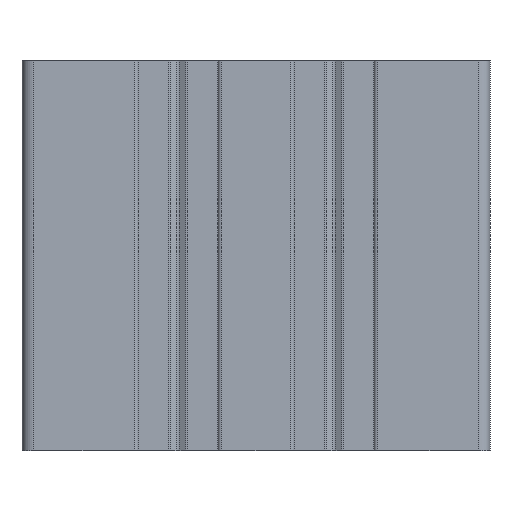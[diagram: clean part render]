
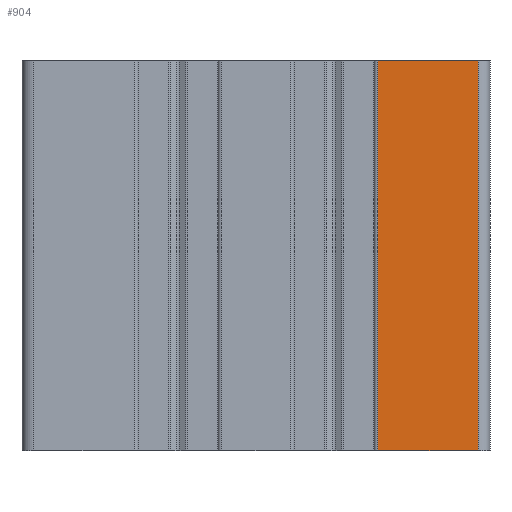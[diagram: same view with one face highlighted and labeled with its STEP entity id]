
A CAD part, left-side view. The second image highlights one B-rep face of the part: STEP entity #904.
In plain terms, the highlighted planar face has unit normal (-1, 0, 0).
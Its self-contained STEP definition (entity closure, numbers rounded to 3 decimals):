
#904=ADVANCED_FACE('',(#1952),#1953,.F.);
#1952=FACE_OUTER_BOUND('',#3129,.T.);
#1953=PLANE('',#3130);
#3129=EDGE_LOOP('',(#6283,#6284,#6285,#6286));
#3130=AXIS2_PLACEMENT_3D('',#6287,#6288,#6289);
#6283=ORIENTED_EDGE('',*,*,#8563,.T.);
#6284=ORIENTED_EDGE('',*,*,#8240,.F.);
#6285=ORIENTED_EDGE('',*,*,#7760,.F.);
#6286=ORIENTED_EDGE('',*,*,#8578,.T.);
#6287=CARTESIAN_POINT('',(0.0,14.4,50.0));
#6288=DIRECTION('',(1.0,0.0,0.0));
#6289=DIRECTION('',(0.0,0.0,-1.0));
#7760=EDGE_CURVE('',#9598,#9600,#9601,.T.);
#8240=EDGE_CURVE('',#9600,#10364,#10368,.T.);
#8563=EDGE_CURVE('',#10660,#10364,#10869,.T.);
#8578=EDGE_CURVE('',#9598,#10660,#10884,.T.);
#9598=VERTEX_POINT('',#12113);
#9600=VERTEX_POINT('',#12115);
#9601=LINE('',#12116,#12117);
#10364=VERTEX_POINT('',#13129);
#10368=LINE('',#13134,#13135);
#10660=VERTEX_POINT('',#13531);
#10869=LINE('',#13802,#13803);
#10884=LINE('',#13826,#13827);
#12113=CARTESIAN_POINT('',(0.0,14.4,50.0));
#12115=CARTESIAN_POINT('',(0.0,1.5,50.0));
#12116=CARTESIAN_POINT('',(0.0,14.4,50.0));
#12117=VECTOR('',#14854,1.0);
#13129=CARTESIAN_POINT('',(0.0,1.5,0.0));
#13134=CARTESIAN_POINT('',(0.0,1.5,50.0));
#13135=VECTOR('',#15543,1.0);
#13531=CARTESIAN_POINT('',(0.0,14.4,0.0));
#13802=CARTESIAN_POINT('',(0.0,14.4,0.0));
#13803=VECTOR('',#16091,1.0);
#13826=CARTESIAN_POINT('',(0.0,14.4,50.0));
#13827=VECTOR('',#16100,1.0);
#14854=DIRECTION('',(0.0,-1.0,0.0));
#15543=DIRECTION('',(0.0,0.0,-1.0));
#16091=DIRECTION('',(0.0,-1.0,0.0));
#16100=DIRECTION('',(0.0,0.0,-1.0));
